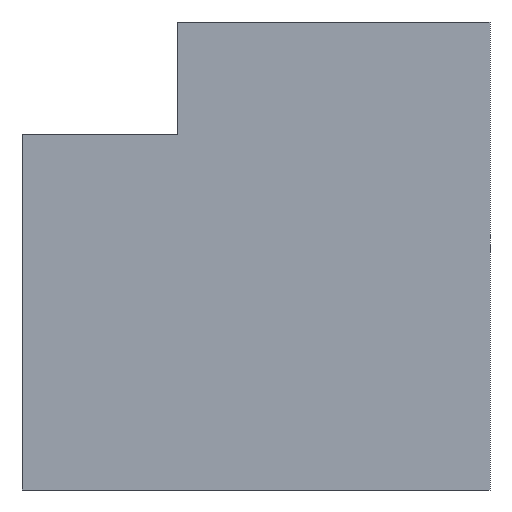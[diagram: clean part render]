
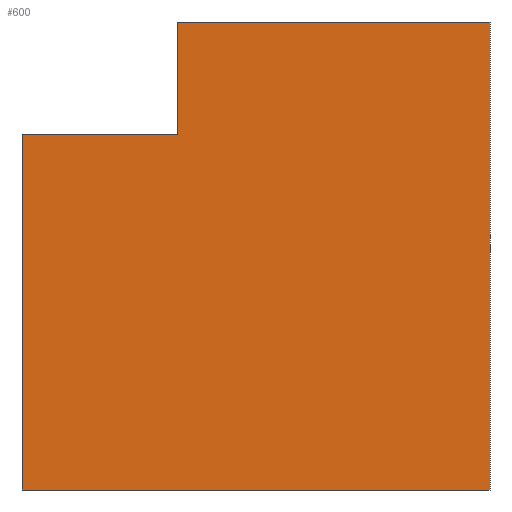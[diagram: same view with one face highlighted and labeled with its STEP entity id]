
A CAD part, front view. The second image highlights one B-rep face of the part: STEP entity #600.
In plain terms, the highlighted planar face has unit normal (0, -1, 0).
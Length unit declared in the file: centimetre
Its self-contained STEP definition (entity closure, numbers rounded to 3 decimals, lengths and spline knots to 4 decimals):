
#10 = CARTESIAN_POINT ( 'NONE',  ( 0., 0., 0. ) ) ;
#12 = CARTESIAN_POINT ( 'NONE',  ( 0., 0., 0. ) ) ;
#16 = CARTESIAN_POINT ( 'NONE',  ( 332.1197, 0., 760.4709 ) ) ;
#17 = EDGE_CURVE ( 'NONE', #711, #166, #613, .T. ) ;
#18 = PLANE ( 'NONE',  #218 ) ;
#30 = EDGE_CURVE ( 'NONE', #384, #66, #680, .T. ) ;
#66 = VERTEX_POINT ( 'NONE', #12 ) ;
#68 = VECTOR ( 'NONE', #625, 100. ) ;
#69 = FACE_OUTER_BOUND ( 'NONE', #525, .T. ) ;
#73 = DIRECTION ( 'NONE',  ( 0., 0., 1. ) ) ;
#84 = CARTESIAN_POINT ( 'NONE',  ( 1000., 0., 1000. ) ) ;
#87 = ORIENTED_EDGE ( 'NONE', *, *, #30, .T. ) ;
#100 = DIRECTION ( 'NONE',  ( 1., 0., 0. ) ) ;
#122 = EDGE_CURVE ( 'NONE', #187, #258, #696, .T. ) ;
#127 = CARTESIAN_POINT ( 'NONE',  ( 0., 0., 1000. ) ) ;
#166 = VERTEX_POINT ( 'NONE', #763 ) ;
#187 = VERTEX_POINT ( 'NONE', #461 ) ;
#189 = LINE ( 'NONE', #10, #731 ) ;
#210 = CARTESIAN_POINT ( 'NONE',  ( 332.1197, 0., 1000. ) ) ;
#218 = AXIS2_PLACEMENT_3D ( 'NONE', #548, #684, #73 ) ;
#244 = EDGE_CURVE ( 'NONE', #258, #711, #708, .T. ) ;
#258 = VERTEX_POINT ( 'NONE', #210 ) ;
#299 = ORIENTED_EDGE ( 'NONE', *, *, #122, .F. ) ;
#305 = CARTESIAN_POINT ( 'NONE',  ( 1000., 0., 1000. ) ) ;
#308 = DIRECTION ( 'NONE',  ( 1., 0., 0. ) ) ;
#366 = LINE ( 'NONE', #488, #791 ) ;
#383 = ORIENTED_EDGE ( 'NONE', *, *, #17, .F. ) ;
#384 = VERTEX_POINT ( 'NONE', #673 ) ;
#405 = ORIENTED_EDGE ( 'NONE', *, *, #595, .F. ) ;
#430 = DIRECTION ( 'NONE',  ( 0., 0., -1. ) ) ;
#434 = VECTOR ( 'NONE', #559, 100. ) ;
#450 = ORIENTED_EDGE ( 'NONE', *, *, #244, .F. ) ;
#461 = CARTESIAN_POINT ( 'NONE',  ( 332.1197, 0., 760.4709 ) ) ;
#483 = EDGE_CURVE ( 'NONE', #66, #166, #189, .T. ) ;
#488 = CARTESIAN_POINT ( 'NONE',  ( 332.1197, 0., 760.4709 ) ) ;
#525 = EDGE_LOOP ( 'NONE', ( #450, #299, #405, #87, #551, #383 ) ) ;
#538 = VECTOR ( 'NONE', #100, 100. ) ;
#548 = CARTESIAN_POINT ( 'NONE',  ( 0., 0., 1000. ) ) ;
#551 = ORIENTED_EDGE ( 'NONE', *, *, #483, .T. ) ;
#552 = DIRECTION ( 'NONE',  ( 1., 0., 0. ) ) ;
#559 = DIRECTION ( 'NONE',  ( 0., 0., 1. ) ) ;
#595 = EDGE_CURVE ( 'NONE', #384, #187, #366, .T. ) ;
#600 = ADVANCED_FACE ( 'NONE', ( #69 ), #18, .F. ) ;
#613 = LINE ( 'NONE', #305, #639 ) ;
#625 = DIRECTION ( 'NONE',  ( 0., 0., -1. ) ) ;
#639 = VECTOR ( 'NONE', #430, 100. ) ;
#673 = CARTESIAN_POINT ( 'NONE',  ( 0., 0., 760.4709 ) ) ;
#680 = LINE ( 'NONE', #127, #68 ) ;
#684 = DIRECTION ( 'NONE',  ( 0., 1., 0. ) ) ;
#696 = LINE ( 'NONE', #16, #434 ) ;
#708 = LINE ( 'NONE', #777, #538 ) ;
#711 = VERTEX_POINT ( 'NONE', #84 ) ;
#731 = VECTOR ( 'NONE', #552, 100. ) ;
#763 = CARTESIAN_POINT ( 'NONE',  ( 1000., 0., 0. ) ) ;
#777 = CARTESIAN_POINT ( 'NONE',  ( 0., 0., 1000. ) ) ;
#791 = VECTOR ( 'NONE', #308, 100. ) ;
